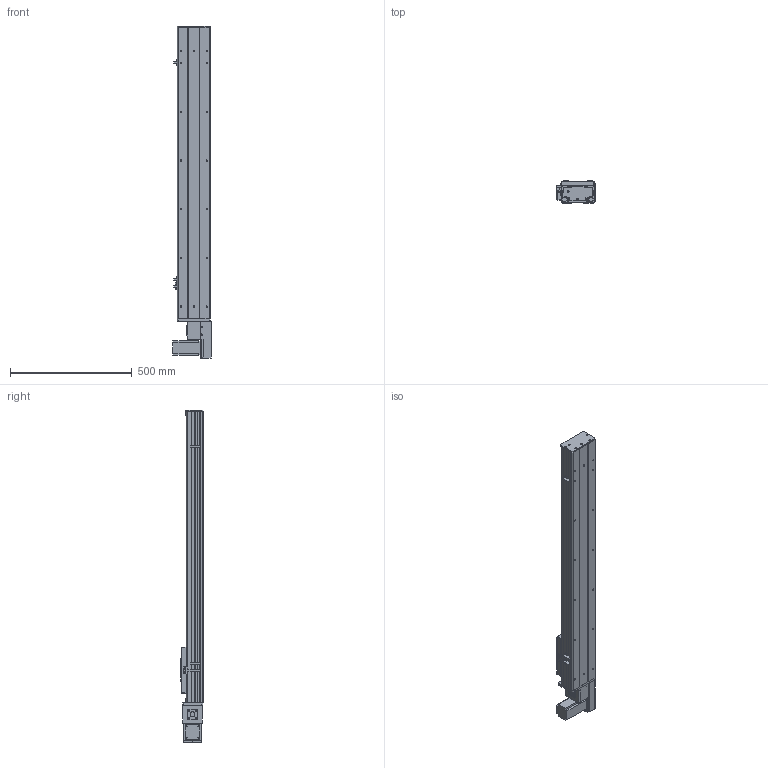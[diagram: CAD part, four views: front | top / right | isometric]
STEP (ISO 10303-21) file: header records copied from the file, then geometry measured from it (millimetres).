
FILE_DESCRIPTION (( 'STEP AP203' ), '1' );
FILE_NAME ('Y135CB-D90-S900-BL-P400W.STEP', '2020-02-17T09:02:14', ( '微软用户' ), ( '微软中国' ), 'SwSTEP 2.0', 'SolidWorks 2017', '' );
FILE_SCHEMA (( 'CONFIG_CONTROL_DESIGN' ));
Length unit declared in the file: millimetre
Products named in the file (18): C-詩湍揤踡え-陔; Y10B--々湍喘謫眊--666; 135CB--詩湍-CE; Y10B-耜蚾蟀諉啣----; Y100-135俋离換覜ん--; Y135CB-耜裔; Y俋欶BR----; Y135C-陔俋离換覜結え-; 135CB---遴掛极.-; 0B-埴倛裔啣; 5C--俋欶; 35CB---喘謫眊楊擘啣; 0B-源倛裔啣; C-雄赽釱--; 0B-萇儂楊擘啣; Y135CB-D90-S900-BL-P400W; san松下电机400不带刹车----; 5CB --掛极耜裔啣-
Assembly tree (21 placements, depth 2):
  Y135CB-D90-S900-BL-P400W
    Y135CB-耜裔
    135CB---遴掛极.-
    35CB---喘謫眊楊擘啣
    Y10B--々湍喘謫眊--666
    Y10B-耜蚾蟀諉啣----
    Y俋欶BR----
    0B-埴倛裔啣
    0B-源倛裔啣
    0B-萇儂楊擘啣
    san松下电机400不带刹车----
    5CB --掛极耜裔啣-  x2
    C-詩湍揤踡え-陔  x2
    135CB--詩湍-CE
    Y100-135俋离換覜ん--  x3
    Y135C-陔俋离換覜結え-
    5C--俋欶
    C-雄赽釱--
Bounding box: 157.5 x 91 x 1364.5 mm (x, y, z)
Volume: 4127497.3 mm3; surface area: 1613125.1 mm2
Topology: 21 solids, 21 shells, 945 faces, 2527 edges, 1674 vertices
Faces by surface type: cylinder 471, plane 458, cone 16
Entity records: 29341 total; most frequent: DIRECTION 4871, CARTESIAN_POINT 4812, ORIENTED_EDGE 4530, EDGE_CURVE 2265, AXIS2_PLACEMENT_3D 1773, VERTEX_POINT 1502, LINE 1325, VECTOR 1325
